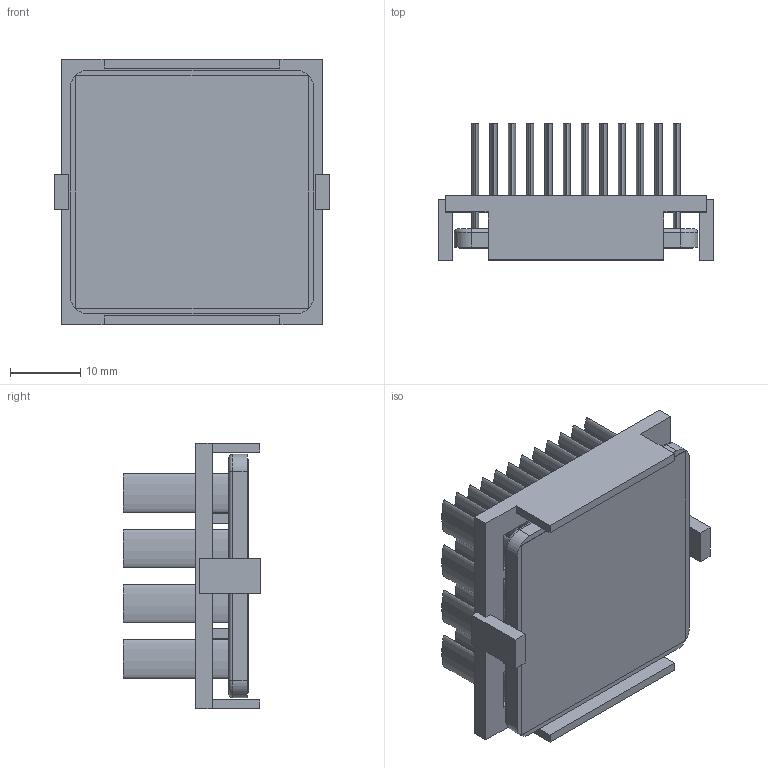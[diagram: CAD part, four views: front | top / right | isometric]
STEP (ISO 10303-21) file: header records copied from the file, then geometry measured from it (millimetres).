
FILE_DESCRIPTION (( 'STEP AP214' ), '1' );
FILE_NAME ('INM35001-18W-2.6BU.STEP', '2023-02-20T22:50:51', ( '' ), ( '' ), 'SwSTEP 2.0', 'SolidWorks 2020', '' );
FILE_SCHEMA (( 'AUTOMOTIVE_DESIGN' ));
Length unit declared in the file: inch
Products named in the file (1): INM35001-18W-2.6BU
Bounding box: 39.2 x 19.5 x 37.7 mm (x, y, z)
Volume: 8365.2 mm3; surface area: 15943.4 mm2
Topology: 3 solids, 3 shells, 222 faces, 496 edges, 328 vertices
Faces by surface type: plane 114, bspline 96, cylinder 8, torus 4
Entity records: 9276 total; most frequent: CARTESIAN_POINT 2295, ORIENTED_EDGE 992, DIRECTION 578, EDGE_CURVE 496, VERTEX_POINT 328, VECTOR 284, LINE 284, EDGE_LOOP 272
